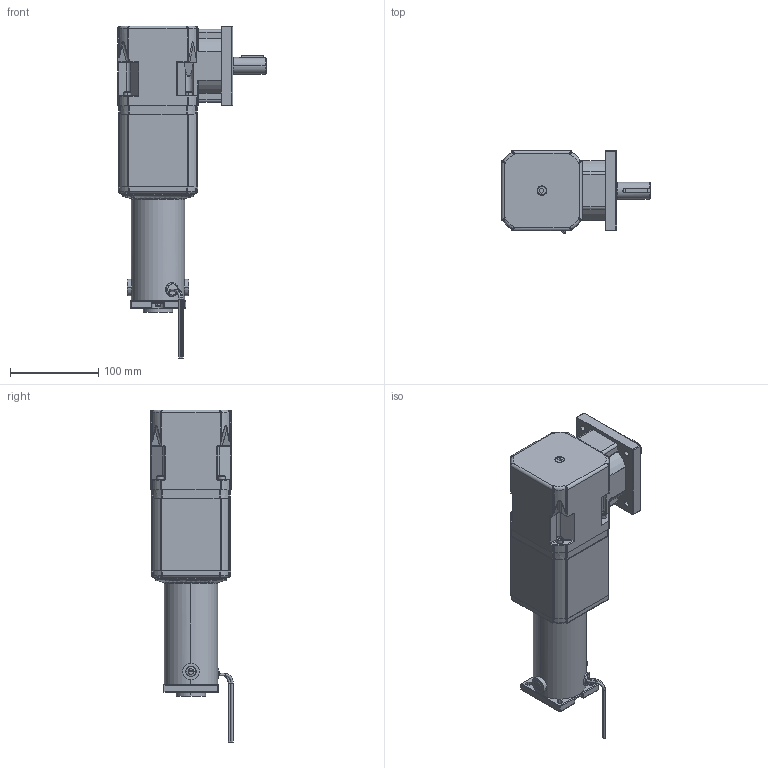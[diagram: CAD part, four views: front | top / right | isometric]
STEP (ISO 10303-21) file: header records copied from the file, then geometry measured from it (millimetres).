
FILE_DESCRIPTION (( 'STEP AP214' ), '1' );
FILE_NAME ('PM6015-RP7300_2S.STEP', '2013-08-28T18:34:17', ( '' ), ( '' ), 'SwSTEP 2.0', 'SolidWorks 2013', '' );
FILE_SCHEMA (( 'AUTOMOTIVE_DESIGN' ));
Length unit declared in the file: inch
Products named in the file (1): PM6015-RP7300_2S
Bounding box: 168.09 x 93.1 x 375.36 mm (x, y, z)
Surface area: 151246.9 mm2 (no closed solid volume)
Topology: 0 solids, 46 shells, 884 faces, 2634 edges, 1685 vertices
Faces by surface type: cylinder 344, plane 263, cone 100, bspline 92, torus 65, sphere 20
Entity records: 44819 total; most frequent: CARTESIAN_POINT 10596, DIRECTION 4947, ORIENTED_EDGE 4334, EDGE_CURVE 2569, AXIS2_PLACEMENT_3D 1893, VERTEX_POINT 1685, VECTOR 1161, LINE 1161
